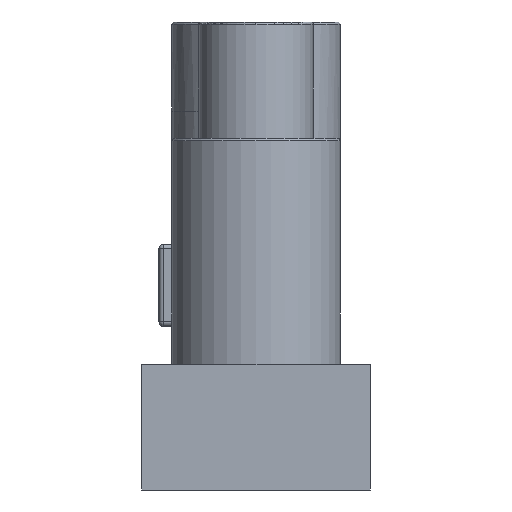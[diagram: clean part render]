
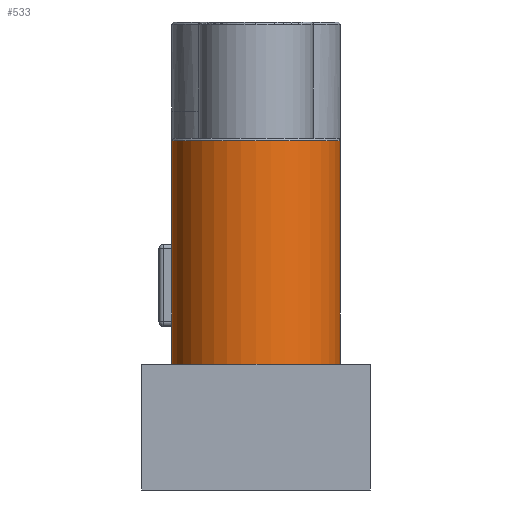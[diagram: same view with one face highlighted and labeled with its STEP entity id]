
A CAD part, left-side view. The second image highlights one B-rep face of the part: STEP entity #533.
In plain terms, the highlighted cylindrical face has radius 37 mm (diameter 74 mm), a partial arc.
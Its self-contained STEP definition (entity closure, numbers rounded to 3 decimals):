
#448=CARTESIAN_POINT('Vertex',(0.,37.,153.)) ;
#451=CARTESIAN_POINT('Axis2P3D Location',(0.,0.,153.)) ;
#455=CARTESIAN_POINT('Vertex',(0.,-37.,153.)) ;
#487=CARTESIAN_POINT('Axis2P3D Location',(0.,0.,85.89)) ;
#492=CARTESIAN_POINT('Line Origine',(0.,37.,73.39)) ;
#496=CARTESIAN_POINT('Vertex',(0.,37.,93.)) ;
#499=CARTESIAN_POINT('Line Origine',(0.,37.,73.39)) ;
#503=CARTESIAN_POINT('Vertex',(0.,37.,55.)) ;
#506=CARTESIAN_POINT('Axis2P3D Location',(0.,0.,55.)) ;
#510=CARTESIAN_POINT('Vertex',(0.,-37.,55.)) ;
#513=CARTESIAN_POINT('Line Origine',(0.,-37.,73.39)) ;
#517=CARTESIAN_POINT('Vertex',(0.,-37.,93.)) ;
#520=CARTESIAN_POINT('Line Origine',(0.,-37.,73.39)) ;
#452=DIRECTION('Axis2P3D Direction',(0.,0.,-1.)) ;
#488=DIRECTION('Axis2P3D Direction',(0.,0.,-1.)) ;
#489=DIRECTION('Axis2P3D XDirection',(0.,-1.,0.)) ;
#493=DIRECTION('Vector Direction',(0.,0.,-1.)) ;
#500=DIRECTION('Vector Direction',(0.,0.,-1.)) ;
#507=DIRECTION('Axis2P3D Direction',(0.,0.,-1.)) ;
#514=DIRECTION('Vector Direction',(0.,0.,-1.)) ;
#521=DIRECTION('Vector Direction',(0.,0.,-1.)) ;
#453=AXIS2_PLACEMENT_3D('Circle Axis2P3D',#451,#452,$) ;
#490=AXIS2_PLACEMENT_3D('Cylinder Axis2P3D',#487,#488,#489) ;
#508=AXIS2_PLACEMENT_3D('Circle Axis2P3D',#506,#507,$) ;
#526=ORIENTED_EDGE('',*,*,#498,.F.) ;
#527=ORIENTED_EDGE('',*,*,#505,.T.) ;
#528=ORIENTED_EDGE('',*,*,#512,.F.) ;
#529=ORIENTED_EDGE('',*,*,#519,.F.) ;
#530=ORIENTED_EDGE('',*,*,#524,.F.) ;
#531=ORIENTED_EDGE('',*,*,#457,.F.) ;
#494=VECTOR('Line Direction',#493,1.) ;
#501=VECTOR('Line Direction',#500,1.) ;
#515=VECTOR('Line Direction',#514,1.) ;
#522=VECTOR('Line Direction',#521,1.) ;
#533=ADVANCED_FACE('',(#532),#491,.T.) ;
#454=CIRCLE('generated circle',#453,37.) ;
#509=CIRCLE('generated circle',#508,37.) ;
#491=CYLINDRICAL_SURFACE('generated cylinder',#490,37.) ;
#457=EDGE_CURVE('',#449,#456,#454,.F.) ;
#498=EDGE_CURVE('',#497,#449,#495,.F.) ;
#505=EDGE_CURVE('',#497,#504,#502,.T.) ;
#512=EDGE_CURVE('',#511,#504,#509,.T.) ;
#519=EDGE_CURVE('',#518,#511,#516,.T.) ;
#524=EDGE_CURVE('',#456,#518,#523,.T.) ;
#525=EDGE_LOOP('',(#526,#527,#528,#529,#530,#531)) ;
#532=FACE_OUTER_BOUND('',#525,.T.) ;
#495=LINE('Line',#492,#494) ;
#502=LINE('Line',#499,#501) ;
#516=LINE('Line',#513,#515) ;
#523=LINE('Line',#520,#522) ;
#449=VERTEX_POINT('',#448) ;
#456=VERTEX_POINT('',#455) ;
#497=VERTEX_POINT('',#496) ;
#504=VERTEX_POINT('',#503) ;
#511=VERTEX_POINT('',#510) ;
#518=VERTEX_POINT('',#517) ;
